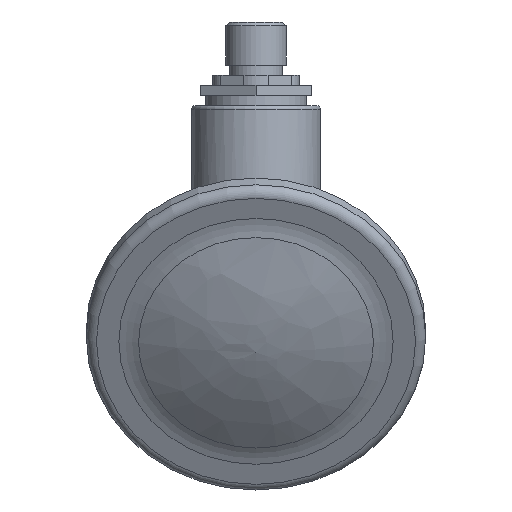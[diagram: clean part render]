
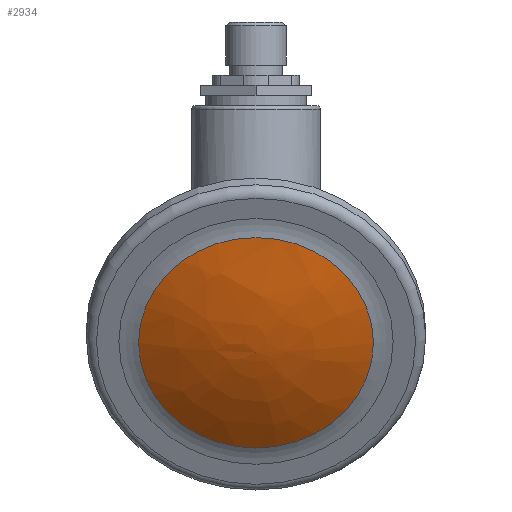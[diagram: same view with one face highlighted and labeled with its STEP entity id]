
A CAD part, left-side view. The second image highlights one B-rep face of the part: STEP entity #2934.
In plain terms, the highlighted free-form (B-spline) face has degree [3, 3] with [5, 19] control points.
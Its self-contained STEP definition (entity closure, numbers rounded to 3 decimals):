
#19=B_SPLINE_SURFACE_WITH_KNOTS('',3,3,((#6262,#6263,#6264,#6265,#6266,
#6267,#6268,#6269,#6270,#6271,#6272,#6273,#6274,#6275,#6276,#6277,#6278,
#6279,#6280),(#6281,#6282,#6283,#6284,#6285,#6286,#6287,#6288,#6289,#6290,
#6291,#6292,#6293,#6294,#6295,#6296,#6297,#6298,#6299),(#6300,#6301,#6302,
#6303,#6304,#6305,#6306,#6307,#6308,#6309,#6310,#6311,#6312,#6313,#6314,
#6315,#6316,#6317,#6318),(#6319,#6320,#6321,#6322,#6323,#6324,#6325,#6326,
#6327,#6328,#6329,#6330,#6331,#6332,#6333,#6334,#6335,#6336,#6337),(#6338,
#6339,#6340,#6341,#6342,#6343,#6344,#6345,#6346,#6347,#6348,#6349,#6350,
#6351,#6352,#6353,#6354,#6355,#6356)),.UNSPECIFIED.,.F.,.T.,.F.,(4,1,4),
(1,1,1,1,1,1,1,1,1,1,1,1,1,1,1,1,1,1,1,1,1,1,1),(0.,0.49,0.98),
(-1.178,-0.785,-0.393,0.,0.393,
0.785,1.178,1.571,1.963,2.356,
2.749,3.142,3.534,3.927,4.32,
4.712,5.105,5.498,5.89,6.283,
6.676,7.069,7.461),.UNSPECIFIED.);
#137=VERTEX_LOOP('',#1542);
#907=ORIENTED_EDGE('',*,*,#1292,.T.);
#1292=EDGE_CURVE('',#1543,#1543,#1714,.T.);
#1542=VERTEX_POINT('',#6357);
#1543=VERTEX_POINT('',#6359);
#1714=CIRCLE('',#3235,23.177);
#1951=EDGE_LOOP('',(#907));
#2241=FACE_BOUND('',#137,.T.);
#2242=FACE_BOUND('',#1951,.T.);
#2934=ADVANCED_FACE('',(#2241,#2242),#19,.F.);
#3235=AXIS2_PLACEMENT_3D('',#6358,#3887,#3888);
#3887=DIRECTION('',(-0.896,0.,-0.444));
#3888=DIRECTION('',(0.444,0.,-0.896));
#6262=CARTESIAN_POINT('',(-114.546,0.,-5.716));
#6263=CARTESIAN_POINT('',(-114.546,0.,-5.716));
#6264=CARTESIAN_POINT('',(-114.546,0.,-5.716));
#6265=CARTESIAN_POINT('',(-114.546,0.,-5.716));
#6266=CARTESIAN_POINT('',(-114.546,0.,-5.716));
#6267=CARTESIAN_POINT('',(-114.546,0.,-5.716));
#6268=CARTESIAN_POINT('',(-114.546,0.,-5.716));
#6269=CARTESIAN_POINT('',(-114.546,0.,-5.716));
#6270=CARTESIAN_POINT('',(-114.546,0.,-5.716));
#6271=CARTESIAN_POINT('',(-114.546,0.,-5.716));
#6272=CARTESIAN_POINT('',(-114.546,0.,-5.716));
#6273=CARTESIAN_POINT('',(-114.546,0.,-5.716));
#6274=CARTESIAN_POINT('',(-114.546,0.,-5.716));
#6275=CARTESIAN_POINT('',(-114.546,0.,-5.716));
#6276=CARTESIAN_POINT('',(-114.546,0.,-5.716));
#6277=CARTESIAN_POINT('',(-114.546,0.,-5.716));
#6278=CARTESIAN_POINT('',(-114.546,0.,-5.716));
#6279=CARTESIAN_POINT('',(-114.546,0.,-5.716));
#6280=CARTESIAN_POINT('',(-114.546,0.,-5.716));
#6281=CARTESIAN_POINT('',(-113.758,3.72,-7.045));
#6282=CARTESIAN_POINT('',(-114.441,4.026,-5.664));
#6283=CARTESIAN_POINT('',(-115.125,3.72,-4.283));
#6284=CARTESIAN_POINT('',(-115.705,2.847,-3.113));
#6285=CARTESIAN_POINT('',(-116.092,1.541,-2.331));
#6286=CARTESIAN_POINT('',(-116.228,0.,-2.056));
#6287=CARTESIAN_POINT('',(-116.092,-1.541,-2.331));
#6288=CARTESIAN_POINT('',(-115.705,-2.847,-3.113));
#6289=CARTESIAN_POINT('',(-115.125,-3.72,-4.283));
#6290=CARTESIAN_POINT('',(-114.441,-4.026,-5.664));
#6291=CARTESIAN_POINT('',(-113.758,-3.72,-7.045));
#6292=CARTESIAN_POINT('',(-113.178,-2.847,-8.215));
#6293=CARTESIAN_POINT('',(-112.791,-1.541,-8.998));
#6294=CARTESIAN_POINT('',(-112.655,0.,-9.272));
#6295=CARTESIAN_POINT('',(-112.791,1.541,-8.998));
#6296=CARTESIAN_POINT('',(-113.178,2.847,-8.215));
#6297=CARTESIAN_POINT('',(-113.758,3.72,-7.045));
#6298=CARTESIAN_POINT('',(-114.441,4.026,-5.664));
#6299=CARTESIAN_POINT('',(-115.125,3.72,-4.283));
#6300=CARTESIAN_POINT('',(-111.642,11.186,-9.448));
#6301=CARTESIAN_POINT('',(-113.698,12.107,-5.296));
#6302=CARTESIAN_POINT('',(-115.753,11.186,-1.144));
#6303=CARTESIAN_POINT('',(-117.496,8.561,2.376));
#6304=CARTESIAN_POINT('',(-118.66,4.633,4.728));
#6305=CARTESIAN_POINT('',(-119.069,0.,5.554));
#6306=CARTESIAN_POINT('',(-118.66,-4.633,4.728));
#6307=CARTESIAN_POINT('',(-117.496,-8.561,2.376));
#6308=CARTESIAN_POINT('',(-115.753,-11.186,-1.144));
#6309=CARTESIAN_POINT('',(-113.698,-12.107,-5.296));
#6310=CARTESIAN_POINT('',(-111.642,-11.186,-9.448));
#6311=CARTESIAN_POINT('',(-109.9,-8.561,-12.968));
#6312=CARTESIAN_POINT('',(-108.735,-4.633,-15.32));
#6313=CARTESIAN_POINT('',(-108.326,0.,-16.146));
#6314=CARTESIAN_POINT('',(-108.735,4.633,-15.32));
#6315=CARTESIAN_POINT('',(-109.9,8.561,-12.968));
#6316=CARTESIAN_POINT('',(-111.642,11.186,-9.448));
#6317=CARTESIAN_POINT('',(-113.698,12.107,-5.296));
#6318=CARTESIAN_POINT('',(-115.753,11.186,-1.144));
#6319=CARTESIAN_POINT('',(-108.509,18.45,-11.254));
#6320=CARTESIAN_POINT('',(-111.899,19.97,-4.406));
#6321=CARTESIAN_POINT('',(-115.29,18.45,2.443));
#6322=CARTESIAN_POINT('',(-118.164,14.121,8.249));
#6323=CARTESIAN_POINT('',(-120.085,7.642,12.129));
#6324=CARTESIAN_POINT('',(-120.759,0.,13.491));
#6325=CARTESIAN_POINT('',(-120.085,-7.642,12.129));
#6326=CARTESIAN_POINT('',(-118.164,-14.121,8.249));
#6327=CARTESIAN_POINT('',(-115.29,-18.45,2.443));
#6328=CARTESIAN_POINT('',(-111.899,-19.97,-4.406));
#6329=CARTESIAN_POINT('',(-108.509,-18.45,-11.254));
#6330=CARTESIAN_POINT('',(-105.634,-14.121,-17.06));
#6331=CARTESIAN_POINT('',(-103.714,-7.642,-20.94));
#6332=CARTESIAN_POINT('',(-103.039,0.,-22.302));
#6333=CARTESIAN_POINT('',(-103.714,7.642,-20.94));
#6334=CARTESIAN_POINT('',(-105.634,14.121,-17.06));
#6335=CARTESIAN_POINT('',(-108.509,18.45,-11.254));
#6336=CARTESIAN_POINT('',(-111.899,19.97,-4.406));
#6337=CARTESIAN_POINT('',(-115.29,18.45,2.443));
#6338=CARTESIAN_POINT('',(-106.717,21.97,-11.994));
#6339=CARTESIAN_POINT('',(-110.754,23.78,-3.839));
#6340=CARTESIAN_POINT('',(-114.792,21.97,4.317));
#6341=CARTESIAN_POINT('',(-118.214,16.815,11.231));
#6342=CARTESIAN_POINT('',(-120.501,9.1,15.851));
#6343=CARTESIAN_POINT('',(-121.304,0.,17.473));
#6344=CARTESIAN_POINT('',(-120.501,-9.1,15.851));
#6345=CARTESIAN_POINT('',(-118.214,-16.815,11.231));
#6346=CARTESIAN_POINT('',(-114.792,-21.97,4.317));
#6347=CARTESIAN_POINT('',(-110.754,-23.78,-3.839));
#6348=CARTESIAN_POINT('',(-106.717,-21.97,-11.994));
#6349=CARTESIAN_POINT('',(-103.294,-16.815,-18.908));
#6350=CARTESIAN_POINT('',(-101.007,-9.1,-23.528));
#6351=CARTESIAN_POINT('',(-100.204,0.,-25.15));
#6352=CARTESIAN_POINT('',(-101.007,9.1,-23.528));
#6353=CARTESIAN_POINT('',(-103.294,16.815,-18.908));
#6354=CARTESIAN_POINT('',(-106.717,21.97,-11.994));
#6355=CARTESIAN_POINT('',(-110.754,23.78,-3.839));
#6356=CARTESIAN_POINT('',(-114.792,21.97,4.317));
#6357=CARTESIAN_POINT('',(-114.546,0.,-5.716));
#6358=CARTESIAN_POINT('',(-110.754,0.,-3.839));
#6359=CARTESIAN_POINT('',(-100.471,0.,-24.61));
